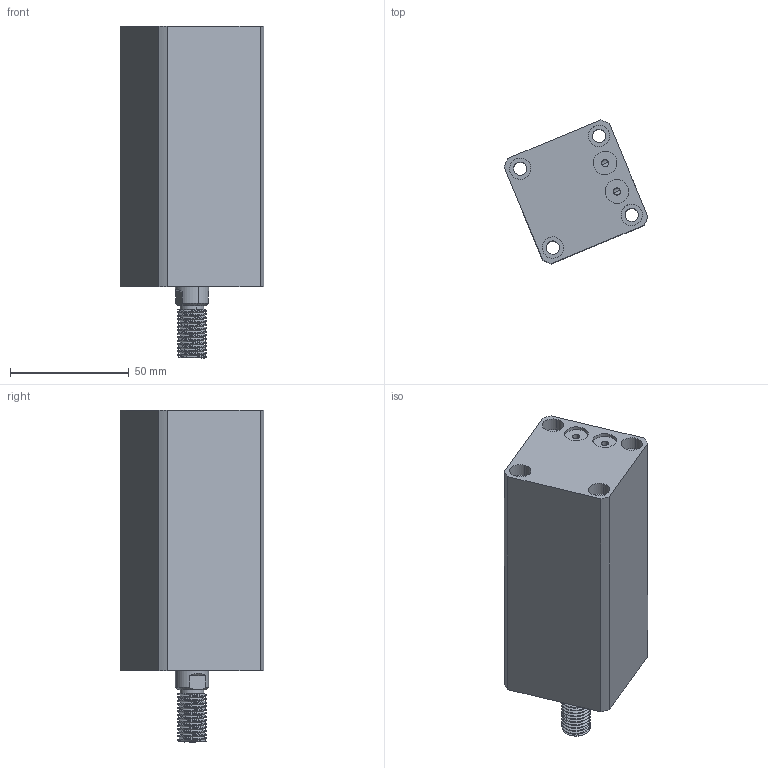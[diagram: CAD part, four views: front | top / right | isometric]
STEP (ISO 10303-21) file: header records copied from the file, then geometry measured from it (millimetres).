
FILE_DESCRIPTION (( 'STEP AP214' ), '1' );
FILE_NAME ('chtb-sdmb25x65w_asm.STEP', '2018-05-24T02:33:35', ( 'Windows' ), ( 'Microsoft' ), 'SwSTEP 2.0', 'SolidWorks 2015', '' );
FILE_SCHEMA (( 'AUTOMOTIVE_DESIGN' ));
Length unit declared in the file: millimetre
Products named in the file (4): CHTB-SDMB25X65WHSG; CHTB-SDMB25X65NBT; CHTB-25QG; chtb-sdmb25x65w_asm
Assembly tree (3 placements, depth 2):
  chtb-sdmb25x65w_asm
    CHTB-25QG
    CHTB-SDMB25X65NBT
    CHTB-SDMB25X65WHSG
Bounding box: 60.55 x 60.55 x 140 mm (x, y, z)
Volume: 218578.7 mm3; surface area: 55602.1 mm2
Topology: 3 solids, 3 shells, 176 faces, 476 edges, 323 vertices
Faces by surface type: cylinder 118, plane 37, bspline 12, cone 9
Entity records: 10721 total; most frequent: CARTESIAN_POINT 6406, ORIENTED_EDGE 944, DIRECTION 765, EDGE_CURVE 472, VERTEX_POINT 323, AXIS2_PLACEMENT_3D 310, EDGE_LOOP 215, FACE_OUTER_BOUND 176
